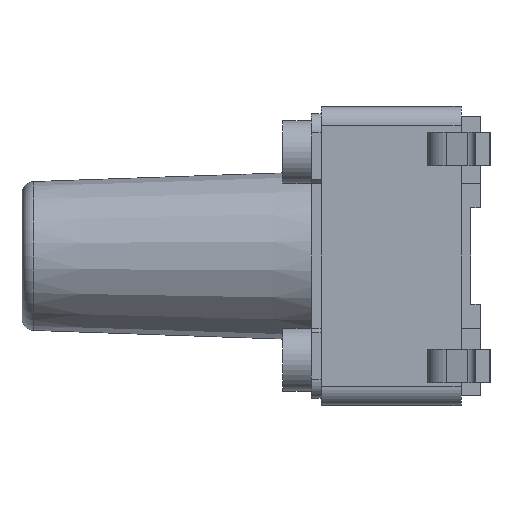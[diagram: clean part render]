
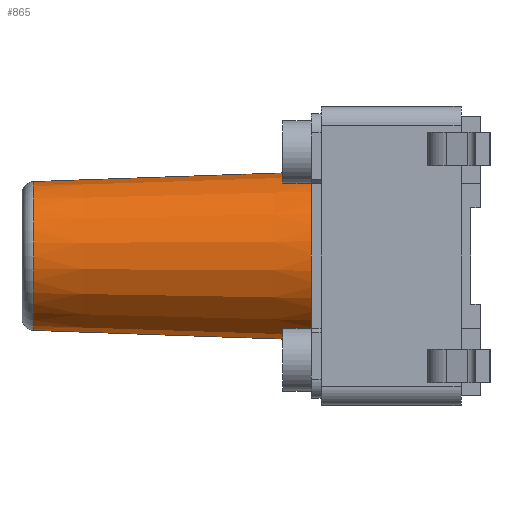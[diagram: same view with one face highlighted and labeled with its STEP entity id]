
A CAD part, left-side view. The second image highlights one B-rep face of the part: STEP entity #865.
In plain terms, the highlighted conical face has half-angle 2 degrees and reference radius 1.75 mm.
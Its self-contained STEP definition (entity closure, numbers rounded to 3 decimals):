
#717 = EDGE_CURVE ( 'NONE', #892, #718, #9357, .T. ) ;
#718 = VERTEX_POINT ( 'NONE', #9371 ) ;
#719 = ORIENTED_EDGE ( 'NONE', *, *, #720, .F. ) ;
#720 = EDGE_CURVE ( 'NONE', #888, #718, #9370, .T. ) ;
#865 = ADVANCED_FACE ( 'NONE', ( #9659 ), #9658, .T. ) ;
#866 = EDGE_LOOP ( 'NONE', ( #907, #890, #893, #719 ) ) ;
#888 = VERTEX_POINT ( 'NONE', #9745 ) ;
#889 = VERTEX_POINT ( 'NONE', #9744 ) ;
#890 = ORIENTED_EDGE ( 'NONE', *, *, #891, .T. ) ;
#891 = EDGE_CURVE ( 'NONE', #889, #892, #9703, .T. ) ;
#892 = VERTEX_POINT ( 'NONE', #9699 ) ;
#893 = ORIENTED_EDGE ( 'NONE', *, *, #717, .T. ) ;
#907 = ORIENTED_EDGE ( 'NONE', *, *, #908, .T. ) ;
#908 = EDGE_CURVE ( 'NONE', #888, #889, #9709, .T. ) ;
#9328 = CARTESIAN_POINT ( 'NONE',  ( 0., 2.6, 0. ) ) ;
#9329 = AXIS2_PLACEMENT_3D ( 'NONE', #9328, #9373, #9372 ) ;
#9357 = CIRCLE ( 'NONE', #9329, 1.75 ) ;
#9366 = DIRECTION ( 'NONE',  ( 0., -0.999, 0.035 ) ) ;
#9367 = VECTOR ( 'NONE', #9366, 1000. ) ;
#9368 = CARTESIAN_POINT ( 'NONE',  ( 0., 2.6, 1.75 ) ) ;
#9370 = LINE ( 'NONE', #9368, #9367 ) ;
#9371 = CARTESIAN_POINT ( 'NONE',  ( 0., 2.6, 1.75 ) ) ;
#9372 = DIRECTION ( 'NONE',  ( 0., 0., 1. ) ) ;
#9373 = DIRECTION ( 'NONE',  ( 0., 1., 0. ) ) ;
#9654 = DIRECTION ( 'NONE',  ( 0., 0., 1. ) ) ;
#9655 = DIRECTION ( 'NONE',  ( 0., -1., 0. ) ) ;
#9656 = CARTESIAN_POINT ( 'NONE',  ( 0., 2.6, 0. ) ) ;
#9657 = AXIS2_PLACEMENT_3D ( 'NONE', #9656, #9655, #9654 ) ;
#9658 = CONICAL_SURFACE ( 'NONE', #9657, 1.75, 0.035 ) ;
#9659 = FACE_OUTER_BOUND ( 'NONE', #866, .T. ) ;
#9663 = DIRECTION ( 'NONE',  ( 0., 0., -1. ) ) ;
#9664 = DIRECTION ( 'NONE',  ( 0., -1., 0. ) ) ;
#9665 = CARTESIAN_POINT ( 'NONE',  ( 0., 8.559, 0. ) ) ;
#9666 = AXIS2_PLACEMENT_3D ( 'NONE', #9665, #9664, #9663 ) ;
#9699 = CARTESIAN_POINT ( 'NONE',  ( 0., 2.6, -1.75 ) ) ;
#9700 = DIRECTION ( 'NONE',  ( 0., -0.999, -0.035 ) ) ;
#9701 = VECTOR ( 'NONE', #9700, 1000. ) ;
#9702 = CARTESIAN_POINT ( 'NONE',  ( 0., 2.6, -1.75 ) ) ;
#9703 = LINE ( 'NONE', #9702, #9701 ) ;
#9709 = CIRCLE ( 'NONE', #9666, 1.542 ) ;
#9744 = CARTESIAN_POINT ( 'NONE',  ( 0., 8.559, -1.542 ) ) ;
#9745 = CARTESIAN_POINT ( 'NONE',  ( 0., 8.559, 1.542 ) ) ;
